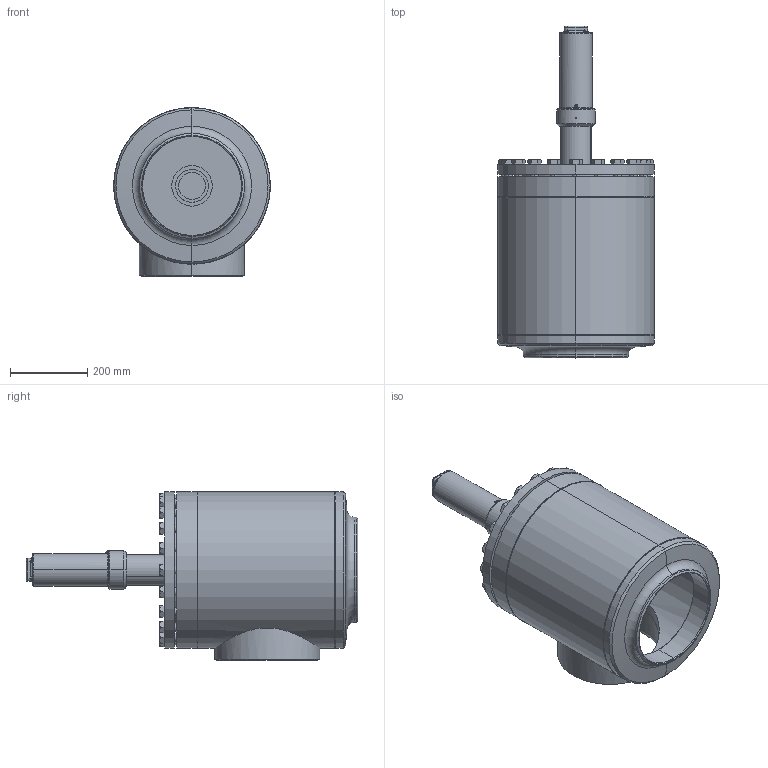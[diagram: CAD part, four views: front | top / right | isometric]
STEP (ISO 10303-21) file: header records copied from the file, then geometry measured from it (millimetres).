
FILE_DESCRIPTION (( 'STEP AP214' ), '1' );
FILE_NAME ('AVR26400aC24-DN250_R1_PS25.STEP', '2007-11-23T10:44:09', ( 'Eckhard Grams' ), ( 'AWP Kälte Klima Armaturen GmbH' ), 'SwSTEP 2.0', 'SolidWorks 2002296', '' );
FILE_SCHEMA (( 'AUTOMOTIVE_DESIGN' ));
Length unit declared in the file: millimetre
Products named in the file (15): AVR26400aC24-DN250_R1_PS25; AVR26300B24_Deck+Schr-DN250_Standard; Deckel,kpl26300B24-DN250_Standard; Buchse f Deckel26300-DN250_Standard; Scheibe f Deckel26300-DN250_Standard; bead-deck263-250_Standard; Sechskantschraube-DIN933_M20x 60; Geh,kpl 26300a-24_R1_Standard; Gehäuse26300-DN250_Standard; Kopfstück26300-DN250_Standard; Boden26300a-24_R1_Standard; Rohrstutzen-A26300a-24_R1_Standard; bead Geh,kpl 26300a-24-2_Standard; bead Geh,kpl 26300a-24-1_Standard; Kappe 16402-23_DN200-350 (M80x3)_Standard
Assembly tree (33 placements, depth 4):
  AVR26400aC24-DN250_R1_PS25
    AVR26300B24_Deck+Schr-DN250_Standard
      Sechskantschraube-DIN933_M20x 60  x20
      Deckel,kpl26300B24-DN250_Standard
        Scheibe f Deckel26300-DN250_Standard
        Buchse f Deckel26300-DN250_Standard
        bead-deck263-250_Standard
    Kappe 16402-23_DN200-350 (M80x3)_Standard
    Geh,kpl 26300a-24_R1_Standard
      Gehäuse26300-DN250_Standard
      bead Geh,kpl 26300a-24-1_Standard
      Boden26300a-24_R1_Standard
      Rohrstutzen-A26300a-24_R1_Standard
      bead Geh,kpl 26300a-24-2_Standard
      Kopfstück26300-DN250_Standard
Bounding box: 406.71 x 862 x 438.35 mm (x, y, z)
Volume: 22451678 mm3; surface area: 2438827.4 mm2
Topology: 30 solids, 30 shells, 741 faces, 1597 edges, 947 vertices
Faces by surface type: cone 304, plane 228, cylinder 162, bspline 31, torus 16
Entity records: 23686 total; most frequent: CARTESIAN_POINT 16753, DIRECTION 1363, ORIENTED_EDGE 1218, EDGE_CURVE 609, AXIS2_PLACEMENT_3D 592, VERTEX_POINT 377, EDGE_LOOP 340, CIRCLE 318
